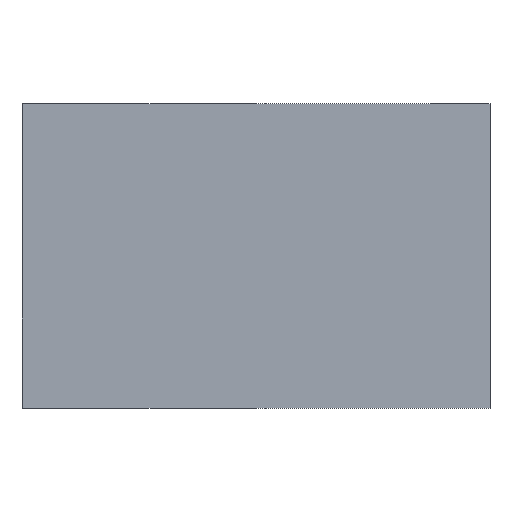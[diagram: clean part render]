
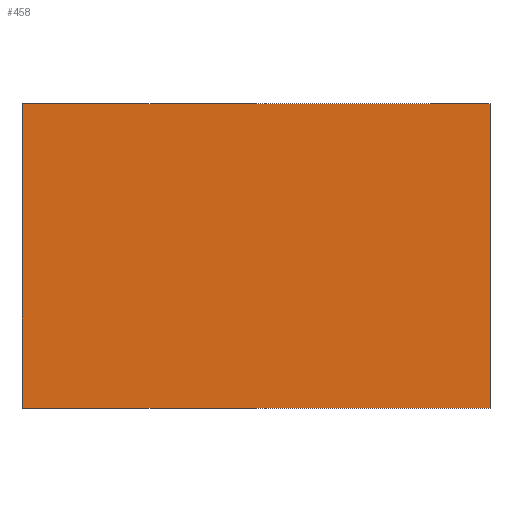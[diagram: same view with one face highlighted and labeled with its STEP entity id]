
A CAD part, top view. The second image highlights one B-rep face of the part: STEP entity #458.
In plain terms, the highlighted planar face has unit normal (0, 0, 1).
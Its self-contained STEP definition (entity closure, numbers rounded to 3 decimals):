
#7 = CARTESIAN_POINT ( 'NONE',  ( -10., 11.1, 0. ) ) ;
#17 = ORIENTED_EDGE ( 'NONE', *, *, #306, .T. ) ;
#29 = LINE ( 'NONE', #405, #499 ) ;
#37 = DIRECTION ( 'NONE',  ( -1., 0., 0. ) ) ;
#42 = EDGE_LOOP ( 'NONE', ( #17, #561, #170, #491 ) ) ;
#104 = CARTESIAN_POINT ( 'NONE',  ( 10., 11.1, 0. ) ) ;
#107 = DIRECTION ( 'NONE',  ( 0., 1., 0. ) ) ;
#117 = FACE_OUTER_BOUND ( 'NONE', #42, .T. ) ;
#143 = DIRECTION ( 'NONE',  ( 0., -1., 0. ) ) ;
#170 = ORIENTED_EDGE ( 'NONE', *, *, #267, .F. ) ;
#240 = PLANE ( 'NONE',  #564 ) ;
#264 = DIRECTION ( 'NONE',  ( -1., 0., 0. ) ) ;
#267 = EDGE_CURVE ( 'NONE', #557, #584, #401, .T. ) ;
#295 = EDGE_CURVE ( 'NONE', #419, #557, #351, .T. ) ;
#306 = EDGE_CURVE ( 'NONE', #419, #328, #29, .T. ) ;
#328 = VERTEX_POINT ( 'NONE', #454 ) ;
#351 = LINE ( 'NONE', #494, #464 ) ;
#379 = CARTESIAN_POINT ( 'NONE',  ( 10., -1.9, 0. ) ) ;
#386 = VECTOR ( 'NONE', #143, 1000. ) ;
#401 = LINE ( 'NONE', #539, #437 ) ;
#405 = CARTESIAN_POINT ( 'NONE',  ( 10., 11.1, 0. ) ) ;
#417 = CARTESIAN_POINT ( 'NONE',  ( 10., 11.1, 0. ) ) ;
#419 = VERTEX_POINT ( 'NONE', #417 ) ;
#437 = VECTOR ( 'NONE', #37, 1000. ) ;
#449 = DIRECTION ( 'NONE',  ( 0., -1., 0. ) ) ;
#454 = CARTESIAN_POINT ( 'NONE',  ( -10., 11.1, 0. ) ) ;
#455 = EDGE_CURVE ( 'NONE', #328, #584, #531, .T. ) ;
#458 = ADVANCED_FACE ( 'NONE', ( #117 ), #240, .F. ) ;
#464 = VECTOR ( 'NONE', #449, 1000. ) ;
#488 = CARTESIAN_POINT ( 'NONE',  ( -10., -1.9, 0. ) ) ;
#491 = ORIENTED_EDGE ( 'NONE', *, *, #295, .F. ) ;
#494 = CARTESIAN_POINT ( 'NONE',  ( 10., 11.1, 0. ) ) ;
#499 = VECTOR ( 'NONE', #264, 1000. ) ;
#531 = LINE ( 'NONE', #7, #386 ) ;
#539 = CARTESIAN_POINT ( 'NONE',  ( 10., -1.9, 0. ) ) ;
#557 = VERTEX_POINT ( 'NONE', #379 ) ;
#561 = ORIENTED_EDGE ( 'NONE', *, *, #455, .T. ) ;
#564 = AXIS2_PLACEMENT_3D ( 'NONE', #104, #572, #107 ) ;
#572 = DIRECTION ( 'NONE',  ( 0., 0., -1. ) ) ;
#584 = VERTEX_POINT ( 'NONE', #488 ) ;
